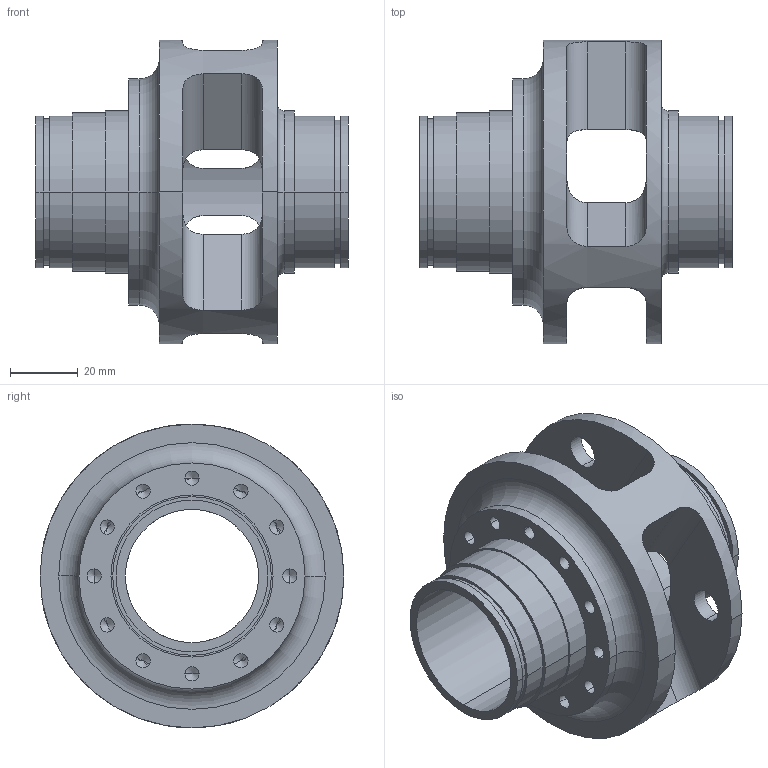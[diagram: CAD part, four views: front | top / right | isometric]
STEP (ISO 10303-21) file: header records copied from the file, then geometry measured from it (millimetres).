
FILE_DESCRIPTION (( 'STEP AP214' ), '1' );
FILE_NAME ('Planetenträger_3D_für_Aufagbenstellung.STEP', '2014-06-13T11:25:07', ( '' ), ( '' ), 'SwSTEP 2.0', 'SolidWorks 2013', '' );
FILE_SCHEMA (( 'AUTOMOTIVE_DESIGN' ));
Length unit declared in the file: millimetre
Products named in the file (1): Planetenträger_3D_für_Aufagbenstellung
Bounding box: 92.6 x 90 x 90 mm (x, y, z)
Volume: 127197.2 mm3; surface area: 45627.2 mm2
Topology: 1 solids, 1 shells, 127 faces, 317 edges, 190 vertices
Faces by surface type: cylinder 72, plane 27, cone 24, torus 4
Entity records: 4143 total; most frequent: CARTESIAN_POINT 1107, DIRECTION 663, ORIENTED_EDGE 586, EDGE_CURVE 293, AXIS2_PLACEMENT_3D 270, VERTEX_POINT 190, EDGE_LOOP 163, CIRCLE 142
